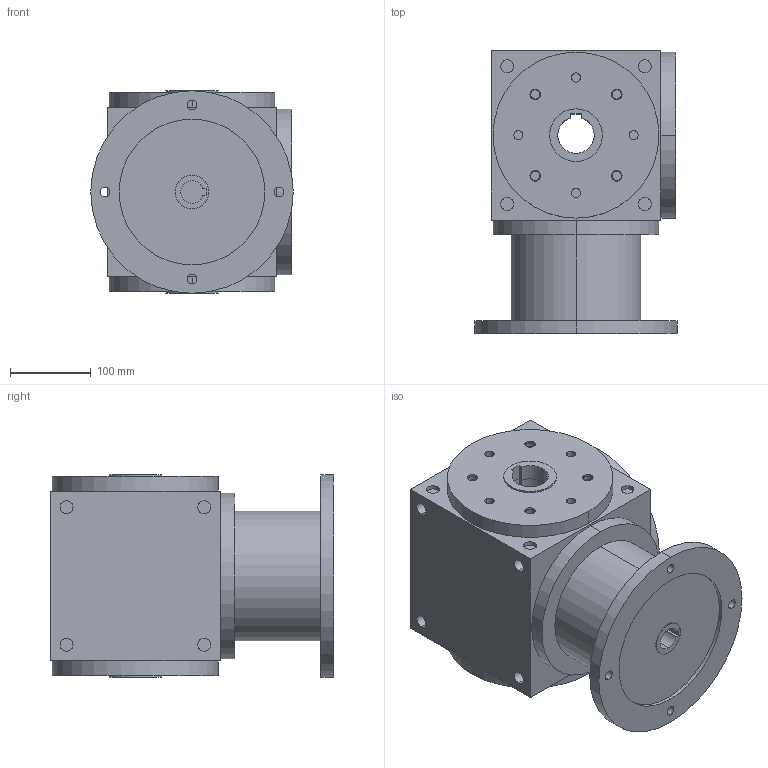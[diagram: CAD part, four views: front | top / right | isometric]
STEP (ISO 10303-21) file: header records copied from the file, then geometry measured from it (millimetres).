
FILE_DESCRIPTION (( 'STEP AP203' ), '1' );
FILE_NAME ('HDAF-21-1-E.step', '2018-06-26T13:22:20', ( 'Windows 蚚誧' ), ( '' ), 'SwSTEP 2.0', 'SolidWorks 2016', '' );
FILE_SCHEMA (( 'CONFIG_CONTROL_DESIGN' ));
Length unit declared in the file: millimetre
Products named in the file (1): HDAF-21-1-E
Bounding box: 250 x 350 x 250 mm (x, y, z)
Volume: 13942957.5 mm3; surface area: 685117.7 mm2
Topology: 4 solids, 4 shells, 184 faces, 408 edges, 272 vertices
Faces by surface type: cylinder 120, plane 64
Entity records: 5343 total; most frequent: DIRECTION 1018, CARTESIAN_POINT 865, ORIENTED_EDGE 816, AXIS2_PLACEMENT_3D 425, EDGE_CURVE 408, VERTEX_POINT 272, EDGE_LOOP 254, CIRCLE 240
